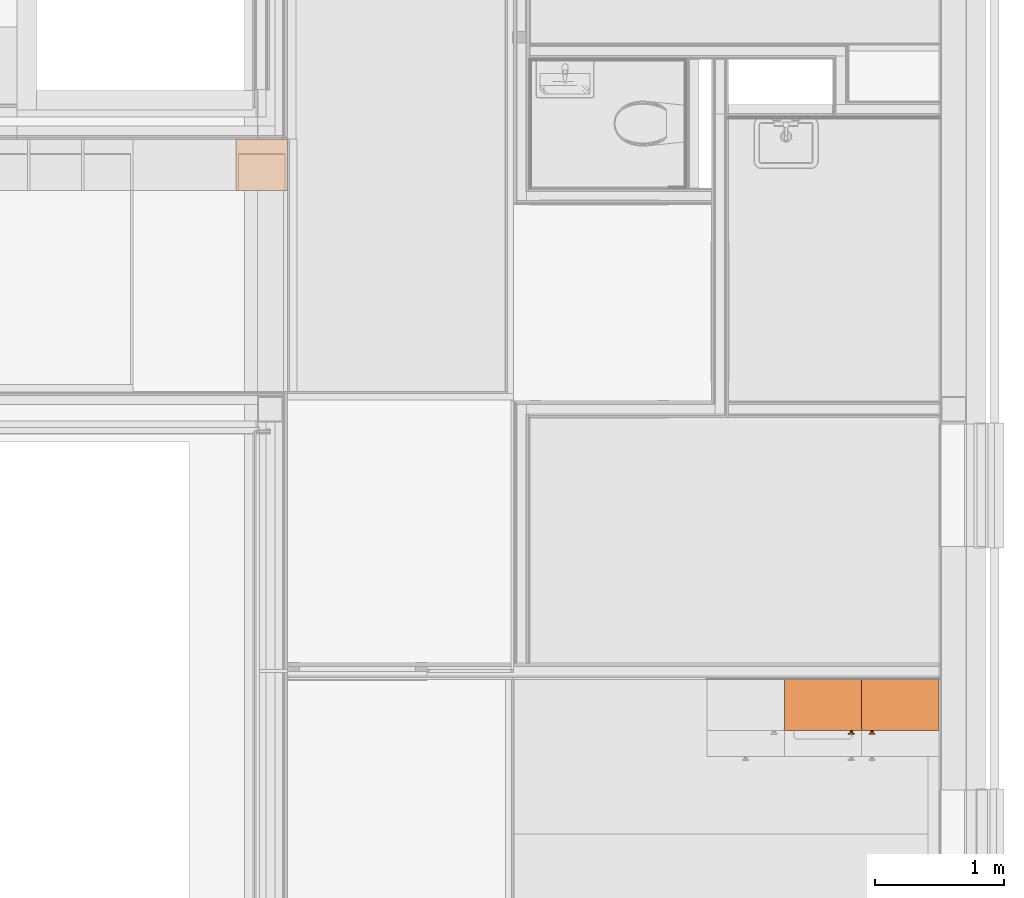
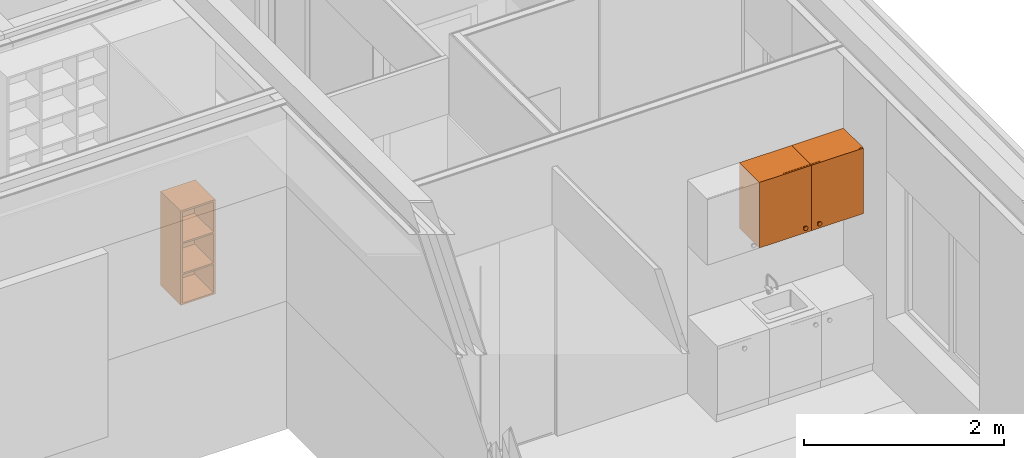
# One storey, part 119 of 137: 3 proxies.
"""IFC2X3 building model written with IfcOpenShell, lengths in millimetres."""

from ifc_helpers import new_model, entity, si_unit, converted_unit, derived_unit, money_unit, direction, frame, origin_with_axes, place, context, subcontext, project, spatial, faceted_brep, source, transform, mapped, type_object, type_shapes, element, save


model = new_model("IFC2X3")

# Units and contexts
model_context = context("Model", 3, precision=0.01, world=origin_with_axes(), true_north=direction((0.0, 1.0)))
body_context = subcontext(model_context, "Body", "Model", "MODEL_VIEW")
ifc_project = project(units=[si_unit("LENGTHUNIT", "METRE", prefix="MILLI"), si_unit("AREAUNIT", "SQUARE_METRE"), si_unit("VOLUMEUNIT", "CUBIC_METRE"), converted_unit("PLANEANGLEUNIT", "DEGREE", entity("IfcPlaneAngleMeasure", 0.0174532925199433), si_unit("PLANEANGLEUNIT", "RADIAN"), dimensions=[0, 0, 0, 0, 0, 0, 0]), money_unit("EUR"), converted_unit("TIMEUNIT", "Year", entity("IfcTimeMeasure", 31556926.0), si_unit("TIMEUNIT", "SECOND"), dimensions=[0, 0, 1, 0, 0, 0, 0]), si_unit("MASSUNIT", "GRAM", prefix="KILO"), si_unit("THERMODYNAMICTEMPERATUREUNIT", "DEGREE_CELSIUS"), si_unit("LUMINOUSINTENSITYUNIT", "LUMEN"), si_unit("ENERGYUNIT", "JOULE", prefix="MEGA"), derived_unit("THERMALCONDUCTANCEUNIT", [(si_unit("POWERUNIT", "WATT"), 1), (si_unit("LENGTHUNIT", "METRE"), -1), (si_unit("THERMODYNAMICTEMPERATUREUNIT", "KELVIN"), -1)]), derived_unit("SPECIFICHEATCAPACITYUNIT", [(si_unit("ENERGYUNIT", "JOULE"), 1), (si_unit("MASSUNIT", "GRAM", prefix="KILO"), -1), (si_unit("THERMODYNAMICTEMPERATUREUNIT", "KELVIN"), -1)]), derived_unit("MASSDENSITYUNIT", [(si_unit("MASSUNIT", "GRAM", prefix="KILO"), 1), (si_unit("VOLUMEUNIT", "CUBIC_METRE"), -1)])], contexts=[model_context])

# Site, building, storey
site_placement = place(None, origin_with_axes())
site = spatial("IfcSite", under=ifc_project, at=site_placement, Name="Site", CompositionType="ELEMENT")
building_placement = place(site_placement, origin_with_axes())
building = spatial("IfcBuilding", under=site, at=building_placement, Name="Naam gebouw", CompositionType="ELEMENT")
storey_placement = place(building_placement, frame((0.0, 0.0, 3960.0), z_axis=(0.0, 0.0, 1.0), x_axis=(1.0, 0.0, 0.0)))
storey = spatial("IfcBuildingStorey", under=building, at=storey_placement, Name="1e verdieping", CompositionType="ELEMENT", Elevation=3960.0)

# Proxies
building_element_proxy_type_1 = type_object("IfcBuildingElementProxyType", Name="Bovenkast recht 26", PredefinedType="NOTDEFINED")
shared_shape_1 = source(origin_with_axes(), body_context, "Body", "Brep", [
    faceted_brep([(18.0, -380.0, 1891.0), (582.0, -380.0, 1891.0), (582.0, -380.0, 1909.0), (18.0, -380.0, 1909.0), (18.0, -18.0, 1891.0), (582.0, -18.0, 1891.0), (582.0, -18.0, 1909.0), (18.0, -18.0, 1909.0)], [[[0, 1, 2, 3]], [[0, 4, 5, 1]], [[1, 5, 6, 2]], [[3, 2, 6, 7]], [[4, 0, 3, 7]], [[5, 4, 7, 6]]]),
    faceted_brep([(531.8176930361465, -398.0, 1570.916221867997), (531.2763114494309, -398.0, 1568.895758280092), (530.3923048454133, -398.0, 1567.0), (529.1925333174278, -398.0, 1565.286548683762), (527.7134513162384, -398.0, 1563.807466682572), (526.0, -398.0, 1562.607695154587), (524.104241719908, -398.0, 1561.723688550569), (522.0837781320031, -398.0, 1561.182306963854), (520.0, -398.0, 1561.0), (517.9162218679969, -398.0, 1561.182306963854), (515.8957582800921, -398.0, 1561.723688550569), (514.0, -398.0, 1562.607695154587), (512.2865486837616, -398.0, 1563.807466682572), (510.8074666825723, -398.0, 1565.286548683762), (509.6076951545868, -398.0, 1567.0), (508.7236885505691, -398.0, 1568.895758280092), (508.1823069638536, -398.0, 1570.916221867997), (508.0, -398.0, 1573.0), (508.1823069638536, -398.0, 1575.083778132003), (508.7236885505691, -398.0, 1577.104241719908), (509.6076951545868, -398.0, 1579.0), (510.8074666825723, -398.0, 1580.713451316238), (512.2865486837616, -398.0, 1582.192533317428), (514.0, -398.0, 1583.392304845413), (515.8957582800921, -398.0, 1584.276311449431), (517.9162218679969, -398.0, 1584.817693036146), (520.0, -398.0, 1585.0), (522.0837781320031, -398.0, 1584.817693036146), (524.104241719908, -398.0, 1584.276311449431), (526.0, -398.0, 1583.392304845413), (527.7134513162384, -398.0, 1582.192533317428), (529.1925333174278, -398.0, 1580.713451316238), (530.3923048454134, -398.0, 1579.0), (531.2763114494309, -398.0, 1577.104241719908), (531.8176930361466, -398.0, 1575.083778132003), (532.0, -398.0, 1573.0), (531.8176930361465, -418.0000000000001, 1570.916221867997), (531.2763114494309, -418.0000000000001, 1568.895758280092), (530.3923048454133, -418.0000000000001, 1567.0), (529.1925333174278, -418.0000000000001, 1565.286548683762), (527.7134513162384, -418.0000000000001, 1563.807466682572), (526.0, -418.0000000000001, 1562.607695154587), (524.104241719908, -418.0000000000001, 1561.723688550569), (522.0837781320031, -418.0000000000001, 1561.182306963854), (520.0, -418.0000000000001, 1561.0), (517.9162218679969, -418.0000000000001, 1561.182306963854), (515.8957582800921, -418.0000000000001, 1561.723688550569), (514.0, -418.0000000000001, 1562.607695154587), (512.2865486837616, -418.0000000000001, 1563.807466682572), (510.8074666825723, -418.0000000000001, 1565.286548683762), (509.6076951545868, -418.0000000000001, 1567.0), (508.7236885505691, -418.0000000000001, 1568.895758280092), (508.1823069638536, -418.0000000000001, 1570.916221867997), (508.0, -418.0000000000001, 1573.0), (508.1823069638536, -418.0000000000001, 1575.083778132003), (508.7236885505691, -418.0000000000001, 1577.104241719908), (509.6076951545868, -418.0000000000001, 1579.0), (510.8074666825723, -418.0000000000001, 1580.713451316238), (512.2865486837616, -418.0000000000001, 1582.192533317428), (514.0, -418.0000000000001, 1583.392304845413), (515.8957582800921, -418.0000000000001, 1584.276311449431), (517.9162218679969, -418.0000000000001, 1584.817693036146), (520.0, -418.0000000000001, 1585.0), (522.0837781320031, -418.0000000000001, 1584.817693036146), (524.104241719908, -418.0000000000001, 1584.276311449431), (526.0, -418.0000000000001, 1583.392304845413), (527.7134513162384, -418.0000000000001, 1582.192533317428), (529.1925333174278, -418.0000000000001, 1580.713451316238), (530.3923048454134, -418.0000000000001, 1579.0), (531.2763114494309, -418.0000000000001, 1577.104241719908), (531.8176930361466, -418.0000000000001, 1575.083778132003), (532.0, -418.0000000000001, 1573.0)], [[[0, 1, 2, 3, 4, 5, 6, 7, 8, 9, 10, 11, 12, 13, 14, 15, 16, 17, 18, 19, 20, 21, 22, 23, 24, 25, 26, 27, 28, 29, 30, 31, 32, 33, 34, 35]], [[1, 0, 36, 37]], [[2, 1, 37, 38]], [[3, 2, 38, 39]], [[4, 3, 39, 40]], [[5, 4, 40, 41]], [[6, 5, 41, 42]], [[7, 6, 42, 43]], [[8, 7, 43, 44]], [[9, 8, 44, 45]], [[10, 9, 45, 46]], [[11, 10, 46, 47]], [[12, 11, 47, 48]], [[13, 12, 48, 49]], [[14, 13, 49, 50]], [[15, 14, 50, 51]], [[16, 15, 51, 52]], [[17, 16, 52, 53]], [[18, 17, 53, 54]], [[19, 18, 54, 55]], [[20, 19, 55, 56]], [[21, 20, 56, 57]], [[22, 21, 57, 58]], [[23, 22, 58, 59]], [[24, 23, 59, 60]], [[25, 24, 60, 61]], [[26, 25, 61, 62]], [[27, 26, 62, 63]], [[28, 27, 63, 64]], [[29, 28, 64, 65]], [[30, 29, 65, 66]], [[31, 30, 66, 67]], [[32, 31, 67, 68]], [[33, 32, 68, 69]], [[34, 33, 69, 70]], [[35, 34, 70, 71]], [[0, 35, 71, 36]], [[36, 71, 70, 69, 68, 67, 66, 65, 64, 63, 62, 61, 60, 59, 58, 57, 56, 55, 54, 53, 52, 51, 50, 49, 48, 47, 46, 45, 44, 43, 42, 41, 40, 39, 38, 37]]]),
    faceted_brep([(543.635386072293, -418.0000000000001, 1568.832443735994), (542.5526228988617, -418.0000000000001, 1564.791516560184), (540.7846096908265, -418.0000000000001, 1561.0), (538.3850666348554, -418.0000000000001, 1557.573097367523), (535.426902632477, -418.0000000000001, 1554.614933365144), (532.0, -418.0000000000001, 1552.215390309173), (528.2084834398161, -418.0000000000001, 1550.447377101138), (524.1675562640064, -418.0000000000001, 1549.364613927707), (520.0, -418.0000000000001, 1549.0), (515.8324437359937, -418.0000000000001, 1549.364613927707), (511.7915165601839, -418.0000000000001, 1550.447377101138), (508.0, -418.0000000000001, 1552.215390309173), (504.5730973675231, -418.0000000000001, 1554.614933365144), (501.6149333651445, -418.0000000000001, 1557.573097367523), (499.2153903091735, -418.0000000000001, 1561.0), (497.4473771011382, -418.0000000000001, 1564.791516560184), (496.364613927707, -418.0000000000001, 1568.832443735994), (496.0000000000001, -418.0000000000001, 1573.0), (496.364613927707, -418.0000000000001, 1577.167556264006), (497.4473771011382, -418.0000000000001, 1581.208483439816), (499.2153903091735, -418.0000000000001, 1585.0), (501.6149333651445, -418.0000000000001, 1588.426902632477), (504.5730973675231, -418.0000000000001, 1591.385066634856), (508.0, -418.0000000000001, 1593.784609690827), (511.7915165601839, -418.0000000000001, 1595.552622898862), (515.8324437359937, -418.0000000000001, 1596.635386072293), (520.0, -418.0000000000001, 1597.0), (524.1675562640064, -418.0000000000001, 1596.635386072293), (528.2084834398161, -418.0000000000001, 1595.552622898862), (532.0, -418.0000000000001, 1593.784609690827), (535.426902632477, -418.0000000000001, 1591.385066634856), (538.3850666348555, -418.0000000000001, 1588.426902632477), (540.7846096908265, -418.0000000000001, 1585.0), (542.5526228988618, -418.0000000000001, 1581.208483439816), (543.635386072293, -418.0000000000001, 1577.167556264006), (544.0, -418.0000000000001, 1573.0), (543.635386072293, -428.0000000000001, 1568.832443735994), (542.5526228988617, -428.0000000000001, 1564.791516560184), (540.7846096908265, -428.0000000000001, 1561.0), (538.3850666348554, -428.0000000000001, 1557.573097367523), (535.426902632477, -428.0000000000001, 1554.614933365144), (532.0, -428.0000000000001, 1552.215390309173), (528.2084834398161, -428.0000000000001, 1550.447377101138), (524.1675562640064, -428.0000000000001, 1549.364613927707), (520.0, -428.0000000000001, 1549.0), (515.8324437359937, -428.0000000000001, 1549.364613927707), (511.7915165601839, -428.0000000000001, 1550.447377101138), (508.0, -428.0000000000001, 1552.215390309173), (504.5730973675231, -428.0000000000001, 1554.614933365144), (501.6149333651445, -428.0000000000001, 1557.573097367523), (499.2153903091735, -428.0000000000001, 1561.0), (497.4473771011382, -428.0000000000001, 1564.791516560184), (496.364613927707, -428.0000000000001, 1568.832443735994), (496.0000000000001, -428.0000000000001, 1573.0), (496.364613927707, -428.0000000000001, 1577.167556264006), (497.4473771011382, -428.0000000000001, 1581.208483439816), (499.2153903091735, -428.0000000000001, 1585.0), (501.6149333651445, -428.0000000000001, 1588.426902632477), (504.5730973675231, -428.0000000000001, 1591.385066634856), (508.0, -428.0000000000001, 1593.784609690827), (511.7915165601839, -428.0000000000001, 1595.552622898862), (515.8324437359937, -428.0000000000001, 1596.635386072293), (520.0, -428.0000000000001, 1597.0), (524.1675562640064, -428.0000000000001, 1596.635386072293), (528.2084834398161, -428.0000000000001, 1595.552622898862), (532.0, -428.0000000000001, 1593.784609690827), (535.426902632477, -428.0000000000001, 1591.385066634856), (538.3850666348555, -428.0000000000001, 1588.426902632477), (540.7846096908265, -428.0000000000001, 1585.0), (542.5526228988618, -428.0000000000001, 1581.208483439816), (543.635386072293, -428.0000000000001, 1577.167556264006), (544.0, -428.0000000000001, 1573.0)], [[[0, 1, 2, 3, 4, 5, 6, 7, 8, 9, 10, 11, 12, 13, 14, 15, 16, 17, 18, 19, 20, 21, 22, 23, 24, 25, 26, 27, 28, 29, 30, 31, 32, 33, 34, 35]], [[1, 0, 36, 37]], [[2, 1, 37, 38]], [[3, 2, 38, 39]], [[4, 3, 39, 40]], [[5, 4, 40, 41]], [[6, 5, 41, 42]], [[7, 6, 42, 43]], [[8, 7, 43, 44]], [[9, 8, 44, 45]], [[10, 9, 45, 46]], [[11, 10, 46, 47]], [[12, 11, 47, 48]], [[13, 12, 48, 49]], [[14, 13, 49, 50]], [[15, 14, 50, 51]], [[16, 15, 51, 52]], [[17, 16, 52, 53]], [[18, 17, 53, 54]], [[19, 18, 54, 55]], [[20, 19, 55, 56]], [[21, 20, 56, 57]], [[22, 21, 57, 58]], [[23, 22, 58, 59]], [[24, 23, 59, 60]], [[25, 24, 60, 61]], [[26, 25, 61, 62]], [[27, 26, 62, 63]], [[28, 27, 63, 64]], [[29, 28, 64, 65]], [[30, 29, 65, 66]], [[31, 30, 66, 67]], [[32, 31, 67, 68]], [[33, 32, 68, 69]], [[34, 33, 69, 70]], [[35, 34, 70, 71]], [[0, 35, 71, 36]], [[36, 71, 70, 69, 68, 67, 66, 65, 64, 63, 62, 61, 60, 59, 58, 57, 56, 55, 54, 53, 52, 51, 50, 49, 48, 47, 46, 45, 44, 43, 42, 41, 40, 39, 38, 37]]]),
    faceted_brep([(1.0, -380.0, 1501.0), (599.0, -380.0, 1501.0), (599.0, -398.0, 1501.0), (1.0, -398.0, 1501.0), (1.0, -379.9999999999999, 2299.0), (599.0, -379.9999999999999, 2299.0), (599.0, -397.9999999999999, 2299.0), (1.0, -397.9999999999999, 2299.0)], [[[0, 1, 2, 3]], [[0, 4, 5, 1]], [[1, 5, 6, 2]], [[3, 2, 6, 7]], [[4, 0, 3, 7]], [[5, 4, 7, 6]]]),
    faceted_brep([(18.0, -380.0, 1500.0), (582.0, -380.0, 1500.0), (582.0, -380.0, 1518.0), (18.0, -380.0, 1518.0), (18.0, 0.0, 1500.0), (582.0, 0.0, 1500.0), (582.0, 0.0, 1518.0), (18.0, 0.0, 1518.0)], [[[0, 1, 2, 3]], [[0, 4, 5, 1]], [[1, 5, 6, 2]], [[3, 2, 6, 7]], [[4, 0, 3, 7]], [[5, 4, 7, 6]]]),
    faceted_brep([(18.0, -380.0, 2282.0), (582.0, -380.0, 2282.0), (582.0, -380.0, 2300.0), (18.0, -380.0, 2300.0), (18.0, 0.0, 2282.0), (582.0, 0.0, 2282.0), (582.0, 0.0, 2300.0), (18.0, 0.0, 2300.0)], [[[0, 1, 2, 3]], [[0, 4, 5, 1]], [[1, 5, 6, 2]], [[3, 2, 6, 7]], [[4, 0, 3, 7]], [[5, 4, 7, 6]]]),
    faceted_brep([(0.0, 0.0, 1500.0), (0.0, -380.0, 1500.0), (0.0, -380.0, 2300.0), (0.0, 0.0, 2300.0), (18.0, 0.0, 1500.0), (18.0, -380.0, 1500.0), (18.0, -380.0, 2300.0), (18.0, 0.0, 2300.0)], [[[0, 1, 2, 3]], [[0, 4, 5, 1]], [[1, 5, 6, 2]], [[3, 2, 6, 7]], [[4, 0, 3, 7]], [[5, 4, 7, 6]]]),
    faceted_brep([(600.0, -380.0, 1500.0), (600.0, 0.0, 1500.0), (600.0, 0.0, 2300.0), (600.0, -380.0, 2300.0), (582.0, -380.0, 1500.0), (582.0, 0.0, 1500.0), (582.0, 0.0, 2300.0), (582.0, -380.0, 2300.0)], [[[0, 1, 2, 3]], [[0, 4, 5, 1]], [[1, 5, 6, 2]], [[3, 2, 6, 7]], [[4, 0, 3, 7]], [[5, 4, 7, 6]]]),
    faceted_brep([(582.0, -9.0, 1518.0), (18.00000000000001, -9.0, 1518.0), (18.00000000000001, -9.0, 2282.0), (582.0, -9.0, 2282.0), (582.0, -18.0, 1518.0), (18.00000000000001, -18.0, 1518.0), (18.00000000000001, -18.0, 2282.0), (582.0, -18.0, 2282.0)], [[[0, 1, 2, 3]], [[0, 4, 5, 1]], [[1, 5, 6, 2]], [[3, 2, 6, 7]], [[4, 0, 3, 7]], [[5, 4, 7, 6]]]),
])
proxy_1_placement = place(storey_placement, frame((28486.00001122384, 8715.0, 299.9999999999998), z_axis=(0.0, 0.0, 1.0), x_axis=(1.0, 0.0, 0.0)))
element("IfcBuildingElementProxy", 1, at=proxy_1_placement, inside=storey, type_object=building_element_proxy_type_1, Name="_Leeg", context=body_context, shape_type="MappedRepresentation", body=[
    mapped(shared_shape_1, transform((0.0, 0.0, 0.0))),
])
shared_shape_2 = source(origin_with_axes(), body_context, "Body", "Brep", [
    faceted_brep([(-18.0, -380.0, 1891.0), (-18.0, -380.0, 1909.0), (-582.0, -380.0, 1909.0), (-582.0, -380.0, 1891.0), (-18.0, -18.0, 1891.0), (-18.0, -18.0, 1909.0), (-582.0, -18.0, 1909.0), (-582.0, -18.0, 1891.0)], [[[0, 1, 2, 3]], [[4, 5, 1, 0]], [[1, 5, 6, 2]], [[3, 2, 6, 7]], [[0, 3, 7, 4]], [[7, 6, 5, 4]]]),
    faceted_brep([(-531.8176930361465, -398.0, 1570.916221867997), (-532.0, -398.0, 1573.0), (-531.8176930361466, -398.0, 1575.083778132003), (-531.2763114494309, -398.0, 1577.104241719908), (-530.3923048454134, -398.0, 1579.0), (-529.1925333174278, -398.0, 1580.713451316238), (-527.7134513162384, -398.0, 1582.192533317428), (-526.0, -398.0, 1583.392304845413), (-524.104241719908, -398.0, 1584.276311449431), (-522.0837781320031, -398.0, 1584.817693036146), (-520.0, -398.0, 1585.0), (-517.9162218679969, -398.0, 1584.817693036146), (-515.8957582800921, -398.0, 1584.276311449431), (-514.0, -398.0, 1583.392304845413), (-512.2865486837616, -398.0, 1582.192533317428), (-510.8074666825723, -398.0, 1580.713451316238), (-509.6076951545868, -398.0, 1579.0), (-508.7236885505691, -398.0, 1577.104241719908), (-508.1823069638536, -398.0, 1575.083778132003), (-508.0, -398.0, 1573.0), (-508.1823069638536, -398.0, 1570.916221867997), (-508.7236885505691, -398.0, 1568.895758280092), (-509.6076951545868, -398.0, 1567.0), (-510.8074666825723, -398.0, 1565.286548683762), (-512.2865486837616, -398.0, 1563.807466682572), (-514.0, -398.0, 1562.607695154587), (-515.8957582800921, -398.0, 1561.723688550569), (-517.9162218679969, -398.0, 1561.182306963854), (-520.0, -398.0, 1561.0), (-522.0837781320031, -398.0, 1561.182306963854), (-524.104241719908, -398.0, 1561.723688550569), (-526.0, -398.0, 1562.607695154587), (-527.7134513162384, -398.0, 1563.807466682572), (-529.1925333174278, -398.0, 1565.286548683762), (-530.3923048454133, -398.0, 1567.0), (-531.2763114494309, -398.0, 1568.895758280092), (-531.8176930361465, -418.0000000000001, 1570.916221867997), (-532.0, -418.0000000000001, 1573.0), (-531.8176930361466, -418.0000000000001, 1575.083778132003), (-531.2763114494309, -418.0000000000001, 1577.104241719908), (-530.3923048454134, -418.0000000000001, 1579.0), (-529.1925333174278, -418.0000000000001, 1580.713451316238), (-527.7134513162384, -418.0000000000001, 1582.192533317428), (-526.0, -418.0000000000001, 1583.392304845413), (-524.104241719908, -418.0000000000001, 1584.276311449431), (-522.0837781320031, -418.0000000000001, 1584.817693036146), (-520.0, -418.0000000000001, 1585.0), (-517.9162218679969, -418.0000000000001, 1584.817693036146), (-515.8957582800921, -418.0000000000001, 1584.276311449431), (-514.0, -418.0000000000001, 1583.392304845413), (-512.2865486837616, -418.0000000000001, 1582.192533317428), (-510.8074666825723, -418.0000000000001, 1580.713451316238), (-509.6076951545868, -418.0000000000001, 1579.0), (-508.7236885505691, -418.0000000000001, 1577.104241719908), (-508.1823069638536, -418.0000000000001, 1575.083778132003), (-508.0, -418.0000000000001, 1573.0), (-508.1823069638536, -418.0000000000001, 1570.916221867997), (-508.7236885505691, -418.0000000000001, 1568.895758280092), (-509.6076951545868, -418.0000000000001, 1567.0), (-510.8074666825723, -418.0000000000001, 1565.286548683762), (-512.2865486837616, -418.0000000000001, 1563.807466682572), (-514.0, -418.0000000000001, 1562.607695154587), (-515.8957582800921, -418.0000000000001, 1561.723688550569), (-517.9162218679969, -418.0000000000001, 1561.182306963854), (-520.0, -418.0000000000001, 1561.0), (-522.0837781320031, -418.0000000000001, 1561.182306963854), (-524.104241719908, -418.0000000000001, 1561.723688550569), (-526.0, -418.0000000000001, 1562.607695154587), (-527.7134513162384, -418.0000000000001, 1563.807466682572), (-529.1925333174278, -418.0000000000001, 1565.286548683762), (-530.3923048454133, -418.0000000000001, 1567.0), (-531.2763114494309, -418.0000000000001, 1568.895758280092)], [[[0, 1, 2, 3, 4, 5, 6, 7, 8, 9, 10, 11, 12, 13, 14, 15, 16, 17, 18, 19, 20, 21, 22, 23, 24, 25, 26, 27, 28, 29, 30, 31, 32, 33, 34, 35]], [[0, 36, 37, 1]], [[1, 37, 38, 2]], [[2, 38, 39, 3]], [[3, 39, 40, 4]], [[4, 40, 41, 5]], [[5, 41, 42, 6]], [[6, 42, 43, 7]], [[7, 43, 44, 8]], [[8, 44, 45, 9]], [[9, 45, 46, 10]], [[10, 46, 47, 11]], [[11, 47, 48, 12]], [[12, 48, 49, 13]], [[13, 49, 50, 14]], [[14, 50, 51, 15]], [[15, 51, 52, 16]], [[16, 52, 53, 17]], [[17, 53, 54, 18]], [[18, 54, 55, 19]], [[19, 55, 56, 20]], [[20, 56, 57, 21]], [[21, 57, 58, 22]], [[22, 58, 59, 23]], [[23, 59, 60, 24]], [[24, 60, 61, 25]], [[25, 61, 62, 26]], [[26, 62, 63, 27]], [[27, 63, 64, 28]], [[28, 64, 65, 29]], [[29, 65, 66, 30]], [[30, 66, 67, 31]], [[31, 67, 68, 32]], [[32, 68, 69, 33]], [[33, 69, 70, 34]], [[34, 70, 71, 35]], [[35, 71, 36, 0]], [[36, 71, 70, 69, 68, 67, 66, 65, 64, 63, 62, 61, 60, 59, 58, 57, 56, 55, 54, 53, 52, 51, 50, 49, 48, 47, 46, 45, 44, 43, 42, 41, 40, 39, 38, 37]]]),
    faceted_brep([(-543.635386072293, -418.0000000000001, 1568.832443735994), (-544.0, -418.0000000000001, 1573.0), (-543.635386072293, -418.0000000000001, 1577.167556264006), (-542.5526228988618, -418.0000000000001, 1581.208483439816), (-540.7846096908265, -418.0000000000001, 1585.0), (-538.3850666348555, -418.0000000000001, 1588.426902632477), (-535.426902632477, -418.0000000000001, 1591.385066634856), (-532.0, -418.0000000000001, 1593.784609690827), (-528.2084834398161, -418.0000000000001, 1595.552622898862), (-524.1675562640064, -418.0000000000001, 1596.635386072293), (-520.0, -418.0000000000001, 1597.0), (-515.8324437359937, -418.0000000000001, 1596.635386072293), (-511.7915165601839, -418.0000000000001, 1595.552622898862), (-508.0, -418.0000000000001, 1593.784609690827), (-504.5730973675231, -418.0000000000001, 1591.385066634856), (-501.6149333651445, -418.0000000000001, 1588.426902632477), (-499.2153903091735, -418.0000000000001, 1585.0), (-497.4473771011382, -418.0000000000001, 1581.208483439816), (-496.364613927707, -418.0000000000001, 1577.167556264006), (-496.0000000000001, -418.0000000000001, 1573.0), (-496.364613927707, -418.0000000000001, 1568.832443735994), (-497.4473771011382, -418.0000000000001, 1564.791516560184), (-499.2153903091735, -418.0000000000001, 1561.0), (-501.6149333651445, -418.0000000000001, 1557.573097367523), (-504.5730973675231, -418.0000000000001, 1554.614933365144), (-508.0, -418.0000000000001, 1552.215390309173), (-511.7915165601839, -418.0000000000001, 1550.447377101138), (-515.8324437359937, -418.0000000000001, 1549.364613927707), (-520.0, -418.0000000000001, 1549.0), (-524.1675562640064, -418.0000000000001, 1549.364613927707), (-528.2084834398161, -418.0000000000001, 1550.447377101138), (-532.0, -418.0000000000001, 1552.215390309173), (-535.426902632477, -418.0000000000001, 1554.614933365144), (-538.3850666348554, -418.0000000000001, 1557.573097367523), (-540.7846096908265, -418.0000000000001, 1561.0), (-542.5526228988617, -418.0000000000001, 1564.791516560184), (-543.635386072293, -428.0000000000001, 1568.832443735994), (-544.0, -428.0000000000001, 1573.0), (-543.635386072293, -428.0000000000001, 1577.167556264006), (-542.5526228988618, -428.0000000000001, 1581.208483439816), (-540.7846096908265, -428.0000000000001, 1585.0), (-538.3850666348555, -428.0000000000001, 1588.426902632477), (-535.426902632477, -428.0000000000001, 1591.385066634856), (-532.0, -428.0000000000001, 1593.784609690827), (-528.2084834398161, -428.0000000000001, 1595.552622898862), (-524.1675562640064, -428.0000000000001, 1596.635386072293), (-520.0, -428.0000000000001, 1597.0), (-515.8324437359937, -428.0000000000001, 1596.635386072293), (-511.7915165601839, -428.0000000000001, 1595.552622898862), (-508.0, -428.0000000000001, 1593.784609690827), (-504.5730973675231, -428.0000000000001, 1591.385066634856), (-501.6149333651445, -428.0000000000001, 1588.426902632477), (-499.2153903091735, -428.0000000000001, 1585.0), (-497.4473771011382, -428.0000000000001, 1581.208483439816), (-496.364613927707, -428.0000000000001, 1577.167556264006), (-496.0000000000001, -428.0000000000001, 1573.0), (-496.364613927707, -428.0000000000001, 1568.832443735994), (-497.4473771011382, -428.0000000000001, 1564.791516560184), (-499.2153903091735, -428.0000000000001, 1561.0), (-501.6149333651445, -428.0000000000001, 1557.573097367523), (-504.5730973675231, -428.0000000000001, 1554.614933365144), (-508.0, -428.0000000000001, 1552.215390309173), (-511.7915165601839, -428.0000000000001, 1550.447377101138), (-515.8324437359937, -428.0000000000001, 1549.364613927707), (-520.0, -428.0000000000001, 1549.0), (-524.1675562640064, -428.0000000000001, 1549.364613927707), (-528.2084834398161, -428.0000000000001, 1550.447377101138), (-532.0, -428.0000000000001, 1552.215390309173), (-535.426902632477, -428.0000000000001, 1554.614933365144), (-538.3850666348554, -428.0000000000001, 1557.573097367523), (-540.7846096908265, -428.0000000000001, 1561.0), (-542.5526228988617, -428.0000000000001, 1564.791516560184)], [[[0, 1, 2, 3, 4, 5, 6, 7, 8, 9, 10, 11, 12, 13, 14, 15, 16, 17, 18, 19, 20, 21, 22, 23, 24, 25, 26, 27, 28, 29, 30, 31, 32, 33, 34, 35]], [[0, 36, 37, 1]], [[1, 37, 38, 2]], [[2, 38, 39, 3]], [[3, 39, 40, 4]], [[4, 40, 41, 5]], [[5, 41, 42, 6]], [[6, 42, 43, 7]], [[7, 43, 44, 8]], [[8, 44, 45, 9]], [[9, 45, 46, 10]], [[10, 46, 47, 11]], [[11, 47, 48, 12]], [[12, 48, 49, 13]], [[13, 49, 50, 14]], [[14, 50, 51, 15]], [[15, 51, 52, 16]], [[16, 52, 53, 17]], [[17, 53, 54, 18]], [[18, 54, 55, 19]], [[19, 55, 56, 20]], [[20, 56, 57, 21]], [[21, 57, 58, 22]], [[22, 58, 59, 23]], [[23, 59, 60, 24]], [[24, 60, 61, 25]], [[25, 61, 62, 26]], [[26, 62, 63, 27]], [[27, 63, 64, 28]], [[28, 64, 65, 29]], [[29, 65, 66, 30]], [[30, 66, 67, 31]], [[31, 67, 68, 32]], [[32, 68, 69, 33]], [[33, 69, 70, 34]], [[34, 70, 71, 35]], [[35, 71, 36, 0]], [[36, 71, 70, 69, 68, 67, 66, 65, 64, 63, 62, 61, 60, 59, 58, 57, 56, 55, 54, 53, 52, 51, 50, 49, 48, 47, 46, 45, 44, 43, 42, 41, 40, 39, 38, 37]]]),
    faceted_brep([(-1.0, -380.0, 1501.0), (-1.0, -398.0, 1501.0), (-599.0, -398.0, 1501.0), (-599.0, -380.0, 1501.0), (-1.0, -379.9999999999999, 2299.0), (-1.0, -397.9999999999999, 2299.0), (-599.0, -397.9999999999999, 2299.0), (-599.0, -379.9999999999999, 2299.0)], [[[0, 1, 2, 3]], [[4, 5, 1, 0]], [[1, 5, 6, 2]], [[3, 2, 6, 7]], [[0, 3, 7, 4]], [[7, 6, 5, 4]]]),
    faceted_brep([(-18.0, -380.0, 1500.0), (-18.0, -380.0, 1518.0), (-582.0, -380.0, 1518.0), (-582.0, -380.0, 1500.0), (-18.0, 0.0, 1500.0), (-18.0, 0.0, 1518.0), (-582.0, 0.0, 1518.0), (-582.0, 0.0, 1500.0)], [[[0, 1, 2, 3]], [[4, 5, 1, 0]], [[1, 5, 6, 2]], [[3, 2, 6, 7]], [[0, 3, 7, 4]], [[7, 6, 5, 4]]]),
    faceted_brep([(-18.0, -380.0, 2282.0), (-18.0, -380.0, 2300.0), (-582.0, -380.0, 2300.0), (-582.0, -380.0, 2282.0), (-18.0, 0.0, 2282.0), (-18.0, 0.0, 2300.0), (-582.0, 0.0, 2300.0), (-582.0, 0.0, 2282.0)], [[[0, 1, 2, 3]], [[4, 5, 1, 0]], [[1, 5, 6, 2]], [[3, 2, 6, 7]], [[0, 3, 7, 4]], [[7, 6, 5, 4]]]),
    faceted_brep([(0.0, 0.0, 1500.0), (0.0, 0.0, 2300.0), (0.0, -380.0, 2300.0), (0.0, -380.0, 1500.0), (-18.0, 0.0, 1500.0), (-18.0, 0.0, 2300.0), (-18.0, -380.0, 2300.0), (-18.0, -380.0, 1500.0)], [[[0, 1, 2, 3]], [[4, 5, 1, 0]], [[1, 5, 6, 2]], [[3, 2, 6, 7]], [[0, 3, 7, 4]], [[7, 6, 5, 4]]]),
    faceted_brep([(-600.0, -380.0, 1500.0), (-600.0, -380.0, 2300.0), (-600.0, 0.0, 2300.0), (-600.0, 0.0, 1500.0), (-582.0, -380.0, 1500.0), (-582.0, -380.0, 2300.0), (-582.0, 0.0, 2300.0), (-582.0, 0.0, 1500.0)], [[[0, 1, 2, 3]], [[4, 5, 1, 0]], [[1, 5, 6, 2]], [[3, 2, 6, 7]], [[0, 3, 7, 4]], [[7, 6, 5, 4]]]),
    faceted_brep([(-582.0, -9.0, 1518.0), (-582.0, -9.0, 2282.0), (-18.00000000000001, -9.0, 2282.0), (-18.00000000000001, -9.0, 1518.0), (-582.0, -18.0, 1518.0), (-582.0, -18.0, 2282.0), (-18.00000000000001, -18.0, 2282.0), (-18.00000000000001, -18.0, 1518.0)], [[[0, 1, 2, 3]], [[4, 5, 1, 0]], [[1, 5, 6, 2]], [[3, 2, 6, 7]], [[0, 3, 7, 4]], [[7, 6, 5, 4]]]),
])
type_shapes(building_element_proxy_type_1, [shared_shape_1, shared_shape_2])
proxy_2_placement = place(storey_placement, frame((29686.00001122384, 8715.0, 299.9999999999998), z_axis=(0.0, 0.0, 1.0), x_axis=(1.0, 0.0, 0.0)))
element("IfcBuildingElementProxy", 2, at=proxy_2_placement, inside=storey, type_object=building_element_proxy_type_1, Name="_Leeg", context=body_context, shape_type="MappedRepresentation", body=[
    mapped(shared_shape_2, transform((0.0, 0.0, 0.0))),
])
building_element_proxy_type_2 = type_object("IfcBuildingElementProxyType", Name="Onderkast recht 26", PredefinedType="NOTDEFINED")
shared_shape_3 = source(origin_with_axes(), body_context, "Body", "Brep", [
    faceted_brep([(-20.0, -399.9999999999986, 366.6666666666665), (-20.0, -399.9999999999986, 384.6666666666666), (-379.9999999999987, -399.9999999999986, 384.6666666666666), (-379.9999999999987, -399.9999999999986, 366.6666666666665), (-20.0, -20.0, 366.6666666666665), (-20.0, -20.0, 384.6666666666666), (-379.9999999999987, -20.0, 384.6666666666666), (-379.9999999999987, -20.0, 366.6666666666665)], [[[0, 1, 2, 3]], [[4, 5, 1, 0]], [[1, 5, 6, 2]], [[3, 2, 6, 7]], [[0, 3, 7, 4]], [[7, 6, 5, 4]]]),
    faceted_brep([(-20.0, -399.9999999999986, 743.3333333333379), (-20.0, -399.9999999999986, 761.3333333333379), (-379.9999999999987, -399.9999999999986, 761.3333333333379), (-379.9999999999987, -399.9999999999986, 743.3333333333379), (-20.0, -20.0, 743.3333333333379), (-20.0, -20.0, 761.3333333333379), (-379.9999999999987, -20.0, 761.3333333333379), (-379.9999999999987, -20.0, 743.3333333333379)], [[[0, 1, 2, 3]], [[4, 5, 1, 0]], [[1, 5, 6, 2]], [[3, 2, 6, 7]], [[0, 3, 7, 4]], [[7, 6, 5, 4]]]),
    faceted_brep([(-20.0, -399.9999999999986, 0.0), (-20.0, -399.9999999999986, 20.0), (-379.9999999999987, -399.9999999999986, 20.0), (-379.9999999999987, -399.9999999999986, 0.0), (-20.0, 0.0, 0.0), (-20.0, 0.0, 20.0), (-379.9999999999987, 0.0, 20.0), (-379.9999999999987, 0.0, 0.0)], [[[0, 1, 2, 3]], [[4, 5, 1, 0]], [[1, 5, 6, 2]], [[3, 2, 6, 7]], [[0, 3, 7, 4]], [[7, 6, 5, 4]]]),
    faceted_brep([(-20.0, -399.9999999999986, 1129.999999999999), (-20.0, -399.9999999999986, 1149.999999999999), (-379.9999999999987, -399.9999999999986, 1149.999999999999), (-379.9999999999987, -399.9999999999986, 1129.999999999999), (-20.0, 0.0, 1129.999999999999), (-20.0, 0.0, 1149.999999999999), (-379.9999999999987, 0.0, 1149.999999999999), (-379.9999999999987, 0.0, 1129.999999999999)], [[[0, 1, 2, 3]], [[4, 5, 1, 0]], [[1, 5, 6, 2]], [[3, 2, 6, 7]], [[0, 3, 7, 4]], [[7, 6, 5, 4]]]),
    faceted_brep([(0.0, 0.0, 0.0), (0.0, 0.0, 1149.999999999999), (0.0, -399.9999999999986, 1149.999999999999), (0.0, -399.9999999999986, 0.0), (-20.0, 0.0, 0.0), (-20.0, 0.0, 1149.999999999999), (-20.0, -399.9999999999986, 1149.999999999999), (-20.0, -399.9999999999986, 0.0)], [[[0, 1, 2, 3]], [[4, 5, 1, 0]], [[1, 5, 6, 2]], [[3, 2, 6, 7]], [[0, 3, 7, 4]], [[7, 6, 5, 4]]]),
    faceted_brep([(-399.9999999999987, -399.9999999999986, 0.0), (-399.9999999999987, -399.9999999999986, 1149.999999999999), (-399.9999999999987, 0.0, 1149.999999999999), (-399.9999999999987, 0.0, 0.0), (-379.9999999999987, -399.9999999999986, 0.0), (-379.9999999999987, -399.9999999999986, 1149.999999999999), (-379.9999999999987, 0.0, 1149.999999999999), (-379.9999999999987, 0.0, 0.0)], [[[0, 1, 2, 3]], [[4, 5, 1, 0]], [[1, 5, 6, 2]], [[3, 2, 6, 7]], [[0, 3, 7, 4]], [[7, 6, 5, 4]]]),
    faceted_brep([(-379.9999999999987, -10.0, 20.0), (-379.9999999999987, -10.0, 1129.999999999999), (-20.00000000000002, -10.0, 1129.999999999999), (-20.00000000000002, -10.0, 20.0), (-379.9999999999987, -20.0, 20.0), (-379.9999999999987, -20.0, 1129.999999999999), (-20.00000000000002, -20.0, 1129.999999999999), (-20.00000000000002, -20.0, 20.0)], [[[0, 1, 2, 3]], [[4, 5, 1, 0]], [[1, 5, 6, 2]], [[3, 2, 6, 7]], [[0, 3, 7, 4]], [[7, 6, 5, 4]]]),
])
type_shapes(building_element_proxy_type_2, [shared_shape_3])
proxy_3_placement = place(storey_placement, frame((24634.99904235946, 12904.99778166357, 49.99999999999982), z_axis=(0.0, 0.0, 1.0), x_axis=(1.0, 0.0, 0.0)))
element("IfcBuildingElementProxy", 3, at=proxy_3_placement, inside=storey, type_object=building_element_proxy_type_2, Name="_Leeg", context=body_context, shape_type="MappedRepresentation", body=[
    mapped(shared_shape_3, transform((0.0, 0.0, 0.0))),
])

save(model, "model.ifc")
